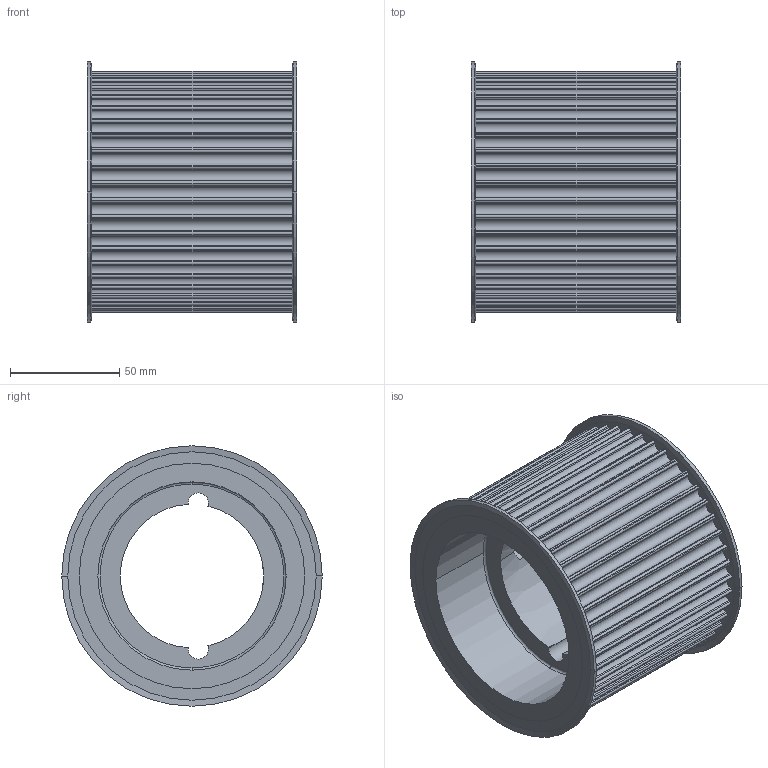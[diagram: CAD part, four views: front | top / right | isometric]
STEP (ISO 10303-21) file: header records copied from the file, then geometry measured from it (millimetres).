
FILE_DESCRIPTION( ( '' ), '1' );
FILE_NAME( 'C:/Users/Stangenbergd/Documents/CAD_Step/1/17477522.stp', '2021-10-19T10:21:49', ( '' ), ( '' ), ' ', ' ', ' ' );
FILE_SCHEMA( ( 'CONFIG_CONTROL_DESIGN' ) );
Length unit declared in the file: millimetre
Products named in the file (1): 1
Bounding box: 95.47 x 119 x 119 mm (x, y, z)
Volume: 367134 mm3; surface area: 91515.1 mm2
Topology: 1 solids, 1 shells, 310 faces, 898 edges, 596 vertices
Faces by surface type: cylinder 196, plane 96, cone 14, torus 4
Entity records: 10560 total; most frequent: CARTESIAN_POINT 1945, DIRECTION 1926, ORIENTED_EDGE 1796, EDGE_CURVE 898, AXIS2_PLACEMENT_3D 729, VERTEX_POINT 596, LINE 468, VECTOR 468
